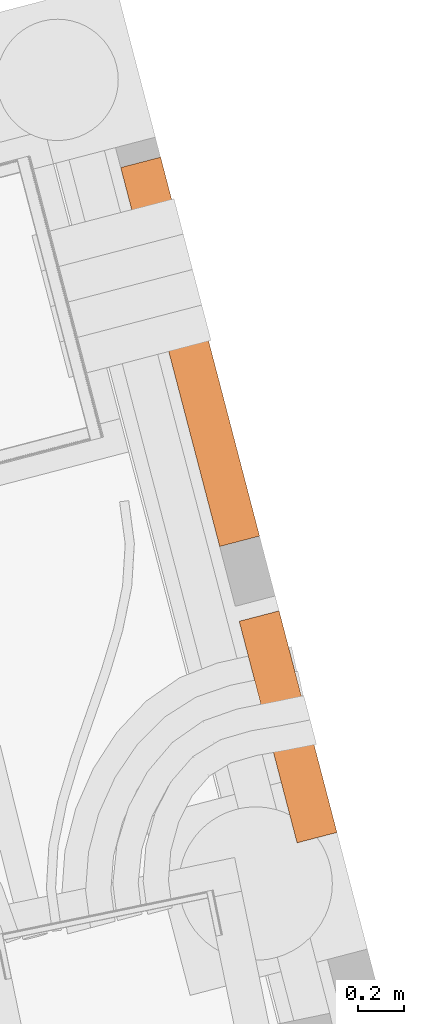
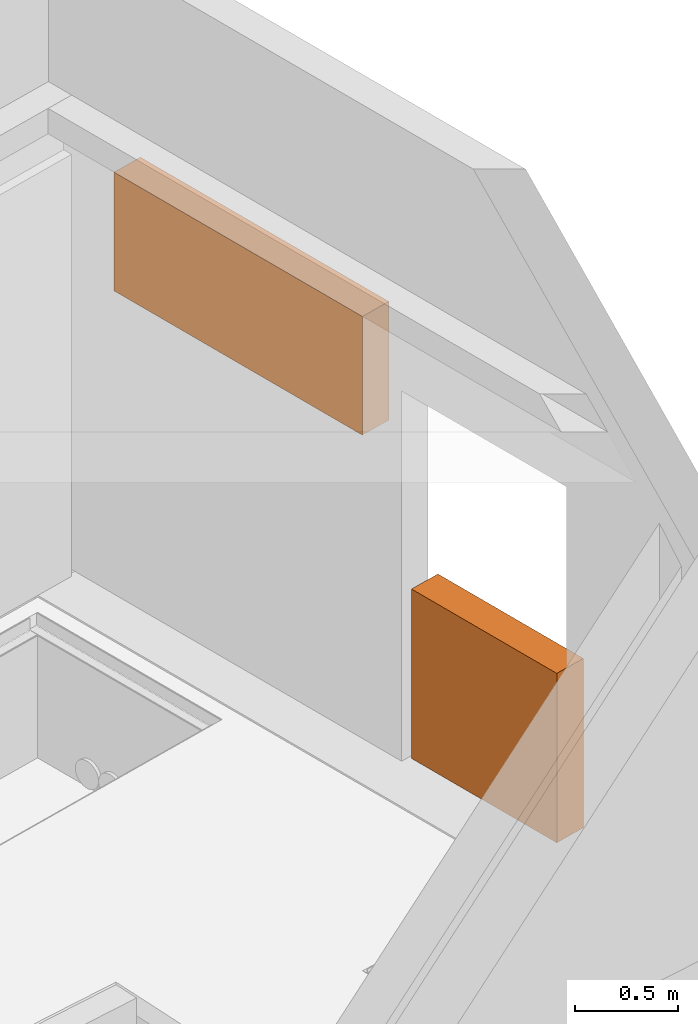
# One storey, part 28 of 29: 2 proxies.
"""IFC2X3 building model written with IfcOpenShell, lengths in centimetres."""

import ifcopenshell
import ifcopenshell.guid

model = None  # the IFC model being written
_history = None  # IfcOwnerHistory: only IFC2X3 demands one
_inside = {}  # id of a spatial element -> (the spatial element, [elements in it])
_under = {}  # id of a project, library or spatial element -> (it, [spatial elements below it])
_declared = {}  # id of a project -> (the project, [libraries it declares])
_typed = {}  # id of a type object -> (the type object, [elements of that type])
_made_of = {}  # id of a material, layer set ... -> (it, [elements and type objects made of it])


def new_model(schema):
    """Start an empty IFC model of exactly this schema.

    Asked for "IFC4X3", IfcOpenShell would pick the latest addendum, in which some entities
    have other attributes; the version numbers below select the first issue.
    IFC2X3 requires an IfcOwnerHistory on every rooted entity: one is made here for all.
    """
    global model, _history
    if schema == "IFC4X3":
        model = ifcopenshell.file(schema_version=(4, 3, 0, 0))
    else:
        model = ifcopenshell.file(schema=schema)
    _inside.clear()
    _under.clear()
    _declared.clear()
    _typed.clear()
    _made_of.clear()
    _history = None
    if model.schema == "IFC2X3":
        org = make("IfcOrganization", Name="unknown")
        user = make(
            "IfcPersonAndOrganization",
            ThePerson=make("IfcPerson", FamilyName="unknown"),
            TheOrganization=org,
        )
        app = make(
            "IfcApplication",
            ApplicationDeveloper=org,
            Version="unknown",
            ApplicationFullName="unknown",
            ApplicationIdentifier="unknown",
        )
        _history = make(
            "IfcOwnerHistory",
            OwningUser=user,
            OwningApplication=app,
            ChangeAction="ADDED",
            CreationDate=0,
        )
    return model


def make(cls, **values):
    """One entity of the class cls with the attributes given. An attribute that is None is left unset."""
    return model.create_entity(
        cls, **{name: value for name, value in values.items() if value is not None}
    )


def entity(cls, *values):
    """Any entity or typed value of the class cls, its attributes in the order of the schema. None: left unset."""
    e = model.create_entity(cls)
    for i, value in enumerate(values):
        if value is not None:
            e[i] = value
    return e


def rooted(cls, **values):
    """An entity with a GlobalId (a new one), such as an element, a storey or a relation."""
    return make(cls, GlobalId=ifcopenshell.guid.new(), OwnerHistory=_history, **values)


def si_unit(unit_type, name, prefix=None):
    """IfcSIUnit, for example si_unit("LENGTHUNIT", "METRE", prefix="MILLI")."""
    return make("IfcSIUnit", UnitType=unit_type, Prefix=prefix, Name=name)


def converted_unit(unit_type, name, factor, base, dimensions=None, offset=None):
    """IfcConversionBasedUnit, such as the inch: factor (a typed value) times the base unit."""
    return make(
        "IfcConversionBasedUnit"
        if offset is None
        else "IfcConversionBasedUnitWithOffset",
        ConversionOffset=offset,
        Dimensions=None
        if dimensions is None
        else entity("IfcDimensionalExponents", *dimensions),
        UnitType=unit_type,
        Name=name,
        ConversionFactor=make(
            "IfcMeasureWithUnit", ValueComponent=factor, UnitComponent=base
        ),
    )


def derived_unit(unit_type, elements):
    """IfcDerivedUnit: a product of units, each with its exponent."""
    return make(
        "IfcDerivedUnit",
        Elements=[
            make("IfcDerivedUnitElement", Unit=unit, Exponent=power)
            for unit, power in elements
        ],
        UnitType=unit_type,
    )


def assignment(units):
    """IfcUnitAssignment: the units of a project."""
    return None if units is None else make("IfcUnitAssignment", Units=units)


def point(xyz):
    """IfcCartesianPoint."""
    return None if xyz is None else make("IfcCartesianPoint", Coordinates=xyz)


def direction(xyz):
    """IfcDirection."""
    return None if xyz is None else make("IfcDirection", DirectionRatios=xyz)


def frame(location, z_axis=None, x_axis=None):
    """IfcAxis2Placement3D, a coordinate frame: its origin and axes. An axis left out is left unset."""
    return make(
        "IfcAxis2Placement3D",
        Location=point(location),
        Axis=direction(z_axis),
        RefDirection=direction(x_axis),
    )


def frame_2d(location, x_axis=None):
    """IfcAxis2Placement2D, a coordinate frame in the plane: its origin and x axis."""
    return make(
        "IfcAxis2Placement2D", Location=point(location), RefDirection=direction(x_axis)
    )


def origin():
    """The frame at (0, 0, 0) with its axes left unset."""
    return frame((0.0, 0.0, 0.0))


def place(relative_to, where):
    """IfcLocalPlacement: puts the frame where relative to a parent placement (None: the world)."""
    return make(
        "IfcLocalPlacement", PlacementRelTo=relative_to, RelativePlacement=where
    )


def context(
    kind, dimensions, precision=None, world=None, true_north=None, identifier=None
):
    """IfcGeometricRepresentationContext, for example the 3D "Model" context."""
    return make(
        "IfcGeometricRepresentationContext",
        ContextIdentifier=identifier,
        ContextType=kind,
        CoordinateSpaceDimension=dimensions,
        Precision=precision,
        WorldCoordinateSystem=world,
        TrueNorth=true_north,
    )


def subcontext(parent, identifier, kind, view, scale=None):
    """IfcGeometricRepresentationSubContext, for example "Body" below "Model"."""
    return make(
        "IfcGeometricRepresentationSubContext",
        ContextIdentifier=identifier,
        ContextType=kind,
        ParentContext=parent,
        TargetScale=scale,
        TargetView=view,
    )


def project(units=None, contexts=None):
    """IfcProject with its units and contexts."""
    return rooted(
        "IfcProject",
        Name="project",
        RepresentationContexts=contexts,
        UnitsInContext=assignment(units),
    )


def spatial(cls, under=None, at=None, **own):
    """A site, building, storey or space (cls), placed at a placement, below another one or the project."""
    s = rooted(cls, ObjectPlacement=at, **own)
    if under is not None:
        _under.setdefault(under.id(), (under, []))[1].append(s)
    return s


def profile(cls, at=None, kind="AREA", **sizes):
    """A parametric profile (cls). Its sizes go by their IFC names, for example OverallWidth=200.0."""
    return make(cls, ProfileType=kind, Position=at, **sizes)


def rectangle(**sizes):
    """IfcRectangleProfileDef."""
    return profile("IfcRectangleProfileDef", **sizes)


def extrude(swept, where, along, depth):
    """IfcExtrudedAreaSolid: the profile swept, set in the frame where, extruded along a direction by depth."""
    return make(
        "IfcExtrudedAreaSolid",
        SweptArea=swept,
        Position=where,
        ExtrudedDirection=direction(along),
        Depth=depth,
    )


def shape(context_of_items, identifier, shape_type, items):
    """IfcShapeRepresentation: the items that make up one representation, for example the "Body"."""
    return make(
        "IfcShapeRepresentation",
        ContextOfItems=context_of_items,
        RepresentationIdentifier=identifier,
        RepresentationType=shape_type,
        Items=items,
    )


def source(mapping_origin, context_of_items, identifier, shape_type, items):
    """IfcRepresentationMap: a shape defined once, which mapped items show again and again."""
    return make(
        "IfcRepresentationMap",
        MappingOrigin=mapping_origin,
        MappedRepresentation=shape(context_of_items, identifier, shape_type, items),
    )


def transform(
    local_origin,
    x_axis=None,
    y_axis=None,
    z_axis=None,
    scale=None,
    scale2=None,
    scale3=None,
    uniform=True,
):
    """IfcCartesianTransformationOperator3D, or its non-uniform kind. x_axis, y_axis, z_axis: its Axis1, 2, 3."""
    if uniform:
        return make(
            "IfcCartesianTransformationOperator3D",
            Axis1=direction(x_axis),
            Axis2=direction(y_axis),
            LocalOrigin=point(local_origin),
            Scale=scale,
            Axis3=direction(z_axis),
        )
    return make(
        "IfcCartesianTransformationOperator3DnonUniform",
        Axis1=direction(x_axis),
        Axis2=direction(y_axis),
        LocalOrigin=point(local_origin),
        Scale=scale,
        Axis3=direction(z_axis),
        Scale2=scale2,
        Scale3=scale3,
    )


def mapped(mapping_source, mapping_target):
    """IfcMappedItem: shows the shape of a source again, moved by a transform."""
    return make(
        "IfcMappedItem", MappingSource=mapping_source, MappingTarget=mapping_target
    )


def material(Name=None, Category=None):
    """IfcMaterial."""
    return make("IfcMaterial", Name=Name, Category=Category)


def made_of(thing, what):
    """Note that an element or type object is made of a material, layer set ...; save() writes the relation."""
    if what is not None:
        _made_of.setdefault(what.id(), (what, []))[1].append(thing)
    return thing


def type_object(cls, material=None, **own):
    """A type object (cls), such as IfcWallType, which elements share."""
    return made_of(rooted(cls, **own), material)


def type_shapes(of_type, sources):
    """Give a type object the sources (RepresentationMaps) that its elements show as mapped items."""
    of_type.RepresentationMaps = sources


def element(
    cls,
    number,
    at=None,
    inside=None,
    cuts=None,
    type_object=None,
    material=None,
    context=None,
    identifier="Body",
    shape_type=None,
    held_by="IfcProductDefinitionShape",
    body=None,
    shapes=None,
    **own,
):
    """One element of the class cls, such as IfcWall. Its Tag is "e" and its number.

    at: its placement. inside: the storey or other place that contains it. cuts: it is an
    opening in that element (IfcRelVoidsElement). A single representation is given by context,
    identifier, shape_type and body (its items); several are given by shapes. held_by: the class
    of the entity that holds the representations. save() writes the other relations.
    """
    e = rooted(cls, Tag="e%d" % number, ObjectPlacement=at, **own)
    if body is not None:
        shapes = [shape(context, identifier, shape_type, body)]
    if shapes is not None:
        e.Representation = make(held_by, Representations=shapes)
    if inside is not None:
        _inside.setdefault(inside.id(), (inside, []))[1].append(e)
    if cuts is not None:
        rooted(
            "IfcRelVoidsElement", RelatingBuildingElement=cuts, RelatedOpeningElement=e
        )
    if type_object is not None:
        _typed.setdefault(type_object.id(), (type_object, []))[1].append(e)
    return made_of(e, material)


def aggregate(whole, parts):
    """IfcRelAggregates: a whole, such as a stair, and the parts it consists of."""
    return rooted("IfcRelAggregates", RelatingObject=whole, RelatedObjects=parts)


def save(model, path):
    """Write the relations noted so far, then the file.

    IfcRelAggregates (storeys below a building ...), IfcRelContainedInSpatialStructure (elements
    in a storey), IfcRelDefinesByType, IfcRelAssociatesMaterial and IfcRelDeclares: one each for
    every whole, place, type object, material and project.
    """
    for whole, parts in _under.values():
        aggregate(whole, parts)
    for where, things in _inside.values():
        rooted(
            "IfcRelContainedInSpatialStructure",
            RelatedElements=things,
            RelatingStructure=where,
        )
    for kind, things in _typed.values():
        rooted("IfcRelDefinesByType", RelatedObjects=things, RelatingType=kind)
    for what, things in _made_of.values():
        rooted("IfcRelAssociatesMaterial", RelatedObjects=things, RelatingMaterial=what)
    for by, libraries in _declared.values():
        rooted("IfcRelDeclares", RelatingContext=by, RelatedDefinitions=libraries)
    model.write(path)


model = new_model("IFC2X3")

# Units and contexts
model_context = context("Model", 3, precision=0.001, world=origin(), true_north=direction((6.12303176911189e-17, 1.0)))
body_context = subcontext(model_context, "Body", "Model", "MODEL_VIEW")
ifc_project = project(units=[si_unit("LENGTHUNIT", "METRE", prefix="CENTI"), si_unit("AREAUNIT", "SQUARE_METRE"), si_unit("VOLUMEUNIT", "CUBIC_METRE"), converted_unit("PLANEANGLEUNIT", "DEGREE", entity("IfcRatioMeasure", 0.0174532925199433), si_unit("PLANEANGLEUNIT", "RADIAN"), dimensions=[0, 0, 0, 0, 0, 0, 0]), si_unit("MASSUNIT", "GRAM", prefix="KILO"), derived_unit("MASSDENSITYUNIT", [(si_unit("MASSUNIT", "GRAM", prefix="KILO"), 1), (si_unit("LENGTHUNIT", "METRE"), -3)]), si_unit("TIMEUNIT", "SECOND"), si_unit("FREQUENCYUNIT", "HERTZ"), si_unit("THERMODYNAMICTEMPERATUREUNIT", "DEGREE_CELSIUS"), derived_unit("THERMALTRANSMITTANCEUNIT", [(si_unit("MASSUNIT", "GRAM", prefix="KILO"), 1), (si_unit("THERMODYNAMICTEMPERATUREUNIT", "KELVIN"), -1), (si_unit("TIMEUNIT", "SECOND"), -3)]), derived_unit("VOLUMETRICFLOWRATEUNIT", [(si_unit("LENGTHUNIT", "METRE"), 3), (si_unit("TIMEUNIT", "SECOND"), -1)]), si_unit("ELECTRICCURRENTUNIT", "AMPERE"), si_unit("ELECTRICVOLTAGEUNIT", "VOLT"), si_unit("POWERUNIT", "WATT"), si_unit("FORCEUNIT", "NEWTON"), si_unit("ILLUMINANCEUNIT", "LUX"), si_unit("LUMINOUSFLUXUNIT", "LUMEN"), si_unit("LUMINOUSINTENSITYUNIT", "CANDELA"), derived_unit("USERDEFINED", [(si_unit("MASSUNIT", "GRAM", prefix="KILO"), -1), (si_unit("LENGTHUNIT", "METRE"), -2), (si_unit("TIMEUNIT", "SECOND"), 3), (si_unit("LUMINOUSFLUXUNIT", "LUMEN"), 1)]), derived_unit("LINEARVELOCITYUNIT", [(si_unit("LENGTHUNIT", "METRE"), 1), (si_unit("TIMEUNIT", "SECOND"), -1)]), si_unit("PRESSUREUNIT", "PASCAL"), derived_unit("USERDEFINED", [(si_unit("LENGTHUNIT", "METRE"), -2), (si_unit("MASSUNIT", "GRAM", prefix="KILO"), 1), (si_unit("TIMEUNIT", "SECOND"), -2)])], contexts=[model_context])

# Site, building, storey
site_placement = place(None, origin())
site = spatial("IfcSite", under=ifc_project, at=site_placement, Name="Default", CompositionType="ELEMENT")
building_placement = place(site_placement, origin())
building = spatial("IfcBuilding", under=site, at=building_placement, Name="CAGE 03", CompositionType="ELEMENT")
storey_placement = place(building_placement, frame((0.0, 0.0, -34.0)))
storey = spatial("IfcBuildingStorey", under=building, at=storey_placement, Name="+3.66", CompositionType="ELEMENT", Elevation=-34.0000000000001)

# Proxies
ifc_material = material(Name="BBGO_Résa")
building_element_proxy_type_1 = type_object("IfcBuildingElementProxyType", Name="Réservation", PredefinedType="NOTDEFINED", material=ifc_material)
shared_shape_1 = source(origin(), body_context, "Body", "SweptSolid", [
    extrude(rectangle(XDim=18.000000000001, YDim=171.0, at=frame_2d((5.41788836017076e-14, 2.1316282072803e-13), x_axis=(1.0, 0.0))), frame((11636.2229164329, 3793.76540687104, 145.0), z_axis=(0.0, 0.0, 1.0), x_axis=(0.967549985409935, 0.252679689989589, 0.0)), (0.0, 0.0, 1.0), 69.9999999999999),
])
type_shapes(building_element_proxy_type_1, [shared_shape_1])
proxy_1_placement = place(storey_placement, frame((0.0, 0.0, 34.0)))
element("IfcBuildingElementProxy", 1, at=proxy_1_placement, inside=storey, type_object=building_element_proxy_type_1, material=ifc_material, Name="BBGO-Résa rect et circ:Réservation", ObjectType="Réservation", context=body_context, shape_type="MappedRepresentation", body=[
    mapped(shared_shape_1, transform((0.0, 0.0, 0.0), scale=1.0)),
])
building_element_proxy_type_2 = type_object("IfcBuildingElementProxyType", Name="Réservation", PredefinedType="NOTDEFINED", material=ifc_material)
shared_shape_2 = source(origin(), body_context, "Body", "SweptSolid", [
    extrude(rectangle(XDim=18.000000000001, YDim=100.0, at=frame_2d((8.37552249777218e-13, -2.1316282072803e-13), x_axis=(1.0, 0.0))), frame((11678.9889539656, 3630.00757183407, -29.0), z_axis=(0.0, 0.0, 1.0), x_axis=(0.967549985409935, 0.252679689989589, 0.0)), (0.0, 0.0, 1.0), 99.9999999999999),
])
type_shapes(building_element_proxy_type_2, [shared_shape_2])
proxy_2_placement = place(storey_placement, frame((0.0, 0.0, 34.0)))
element("IfcBuildingElementProxy", 2, at=proxy_2_placement, inside=storey, type_object=building_element_proxy_type_2, material=ifc_material, Name="BBGO-Résa rect et circ:Réservation", ObjectType="Réservation", context=body_context, shape_type="MappedRepresentation", body=[
    mapped(shared_shape_2, transform((0.0, 0.0, 0.0), scale=1.0)),
])

save(model, "model.ifc")
